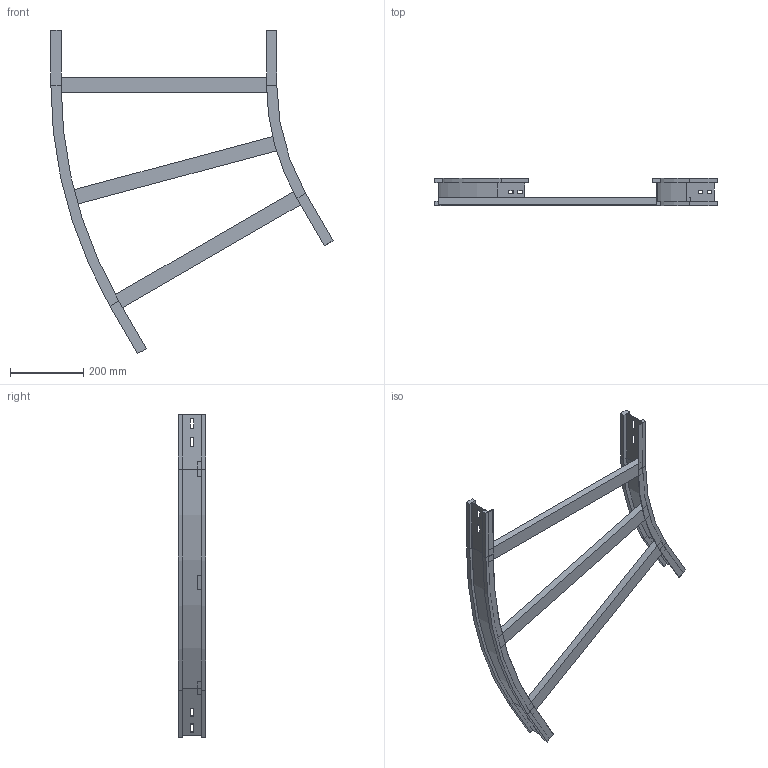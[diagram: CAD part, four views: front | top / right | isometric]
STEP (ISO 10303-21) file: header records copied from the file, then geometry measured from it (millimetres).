
FILE_DESCRIPTION (( 'STEP AP214' ), '1' );
FILE_NAME ('12S6C600.step', '2025-02-21T16:02:42', ( '' ), ( '' ), 'SwSTEP 2.0', 'SolidWorks 2023', '' );
FILE_SCHEMA (( 'AUTOMOTIVE_DESIGN' ));
Length unit declared in the file: millimetre
Products named in the file (4): TRAVERSINO_600; LONGH.INTERNO 30°_H75_R600; 12S6C600; LONGH.ESTERNO 30°_H75_R600+600
Assembly tree (5 placements, depth 2):
  12S6C600
    LONGH.INTERNO 30°_H75_R600
    LONGH.ESTERNO 30°_H75_R600+600
    TRAVERSINO_600  x3
Bounding box: 772.18 x 75 x 884.4 mm (x, y, z)
Volume: 2208065.9 mm3; surface area: 601750 mm2
Topology: 5 solids, 5 shells, 126 faces, 300 edges, 184 vertices
Faces by surface type: plane 114, cylinder 12
Entity records: 3389 total; most frequent: CARTESIAN_POINT 566, ORIENTED_EDGE 552, DIRECTION 544, EDGE_CURVE 276, LINE 252, VECTOR 252, VERTEX_POINT 168, AXIS2_PLACEMENT_3D 146
